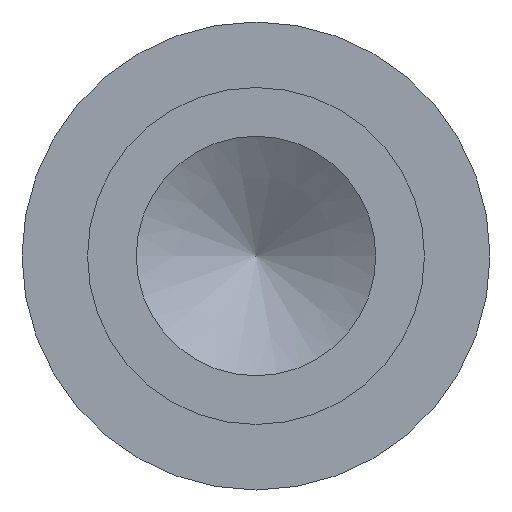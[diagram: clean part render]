
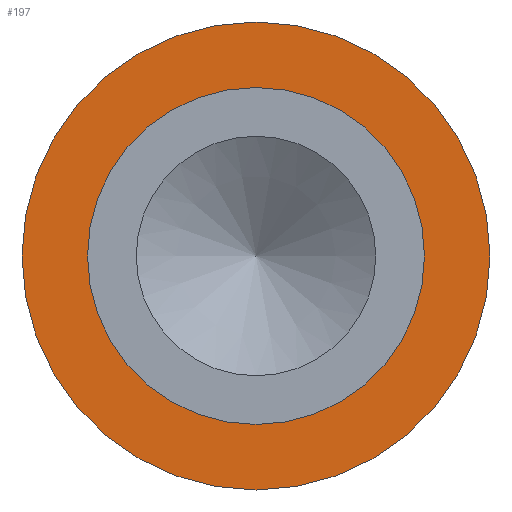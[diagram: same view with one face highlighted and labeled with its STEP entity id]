
A CAD part, left-side view. The second image highlights one B-rep face of the part: STEP entity #197.
In plain terms, the highlighted planar face has unit normal (-1, 0, 0).
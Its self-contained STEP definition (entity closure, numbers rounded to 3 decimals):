
#17=PLANE($,#223);
#26=FACE_BOUND($,#73,.T.);
#54=FACE_OUTER_BOUND($,#72,.T.);
#72=EDGE_LOOP($,(#162));
#73=EDGE_LOOP($,(#163));
#105=CIRCLE($,#221,1.143);
#107=CIRCLE($,#224,1.588);
#123=VERTEX_POINT($,#337);
#125=VERTEX_POINT($,#342);
#141=EDGE_CURVE($,#123,#123,#105,.T.);
#143=EDGE_CURVE($,#125,#125,#107,.T.);
#162=ORIENTED_EDGE($,*,*,#143,.F.);
#163=ORIENTED_EDGE($,*,*,#141,.T.);
#197=ADVANCED_FACE($,(#54,#26),#17,.T.);
#221=AXIS2_PLACEMENT_3D($,#338,#265,#266);
#223=AXIS2_PLACEMENT_3D($,#341,#269,#270);
#224=AXIS2_PLACEMENT_3D($,#343,#271,#272);
#265=DIRECTION('center_axis',(1.,0.,0.));
#266=DIRECTION('ref_axis',(0.,1.,0.));
#269=DIRECTION('center_axis',(-1.,0.,0.));
#270=DIRECTION('ref_axis',(0.,0.,1.));
#271=DIRECTION('center_axis',(1.,0.,0.));
#272=DIRECTION('ref_axis',(0.,1.,0.));
#337=CARTESIAN_POINT('',(1.905,1.143,0.));
#338=CARTESIAN_POINT('Origin',(1.905,0.,0.));
#341=CARTESIAN_POINT('Origin',(1.905,1.365,0.));
#342=CARTESIAN_POINT('',(1.905,1.588,0.));
#343=CARTESIAN_POINT('Origin',(1.905,0.,0.));
